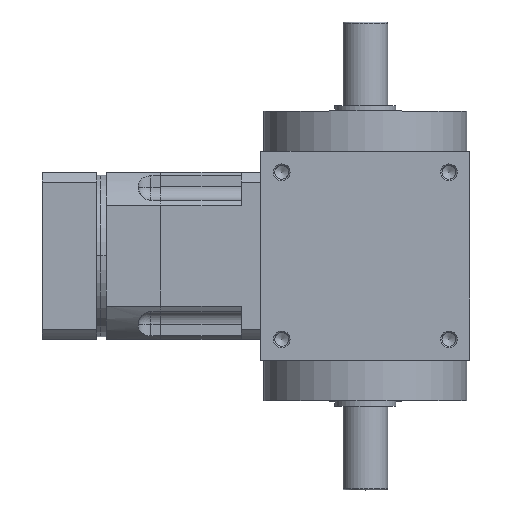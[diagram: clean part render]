
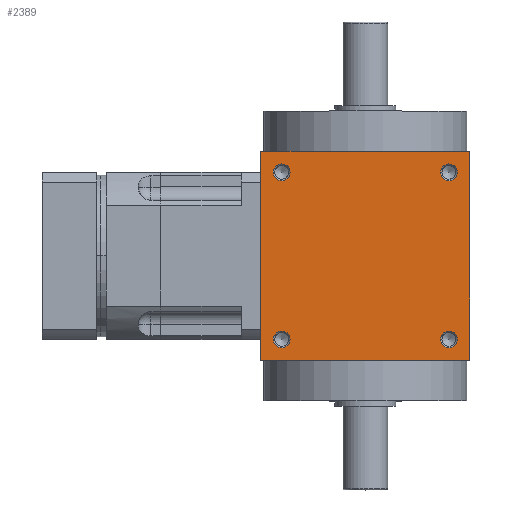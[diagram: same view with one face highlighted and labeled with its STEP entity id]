
A CAD part, top view. The second image highlights one B-rep face of the part: STEP entity #2389.
In plain terms, the highlighted planar face has unit normal (0, 0, 1).
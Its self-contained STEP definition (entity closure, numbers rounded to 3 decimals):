
#374=PLANE('',#8623);
#1082=LINE('',#12727,#1672);
#1083=LINE('',#12730,#1673);
#1084=LINE('',#12732,#1674);
#1085=LINE('',#12734,#1675);
#1672=VECTOR('',#10200,1.);
#1673=VECTOR('',#10201,1.);
#1674=VECTOR('',#10202,1.);
#1675=VECTOR('',#10203,1.);
#2389=ADVANCED_FACE('',(#3009,#3010,#3011,#3012,#3013),#374,.T.);
#3009=FACE_BOUND('',#3458,.T.);
#3010=FACE_BOUND('',#3459,.T.);
#3011=FACE_BOUND('',#3460,.T.);
#3012=FACE_BOUND('',#3461,.T.);
#3013=FACE_BOUND('',#3462,.T.);
#3458=EDGE_LOOP('',(#4638));
#3459=EDGE_LOOP('',(#4639));
#3460=EDGE_LOOP('',(#4640));
#3461=EDGE_LOOP('',(#4641));
#3462=EDGE_LOOP('',(#4642,#4643,#4644,#4645));
#4638=ORIENTED_EDGE('',*,*,#7164,.F.);
#4639=ORIENTED_EDGE('',*,*,#7163,.F.);
#4640=ORIENTED_EDGE('',*,*,#7162,.F.);
#4641=ORIENTED_EDGE('',*,*,#7161,.F.);
#4642=ORIENTED_EDGE('',*,*,#7200,.F.);
#4643=ORIENTED_EDGE('',*,*,#7201,.F.);
#4644=ORIENTED_EDGE('',*,*,#7202,.F.);
#4645=ORIENTED_EDGE('',*,*,#7203,.F.);
#6311=VERTEX_POINT('',#12634);
#6312=VERTEX_POINT('',#12637);
#6313=VERTEX_POINT('',#12640);
#6314=VERTEX_POINT('',#12643);
#6340=VERTEX_POINT('',#12728);
#6341=VERTEX_POINT('',#12729);
#6342=VERTEX_POINT('',#12731);
#6343=VERTEX_POINT('',#12733);
#7161=EDGE_CURVE('',#6311,#6311,#7947,.T.);
#7162=EDGE_CURVE('',#6312,#6312,#7948,.T.);
#7163=EDGE_CURVE('',#6313,#6313,#7949,.T.);
#7164=EDGE_CURVE('',#6314,#6314,#7950,.T.);
#7200=EDGE_CURVE('',#6340,#6341,#1082,.T.);
#7201=EDGE_CURVE('',#6342,#6340,#1083,.T.);
#7202=EDGE_CURVE('',#6343,#6342,#1084,.T.);
#7203=EDGE_CURVE('',#6341,#6343,#1085,.T.);
#7947=CIRCLE('',#8558,3.);
#7948=CIRCLE('',#8560,3.);
#7949=CIRCLE('',#8562,3.);
#7950=CIRCLE('',#8564,3.);
#8558=AXIS2_PLACEMENT_3D('',#12633,#10070,#10071);
#8560=AXIS2_PLACEMENT_3D('',#12636,#10074,#10075);
#8562=AXIS2_PLACEMENT_3D('',#12639,#10078,#10079);
#8564=AXIS2_PLACEMENT_3D('',#12642,#10082,#10083);
#8623=AXIS2_PLACEMENT_3D('',#12735,#10204,#10205);
#10070=DIRECTION('',(0.,0.,1.));
#10071=DIRECTION('',(1.,0.,0.));
#10074=DIRECTION('',(0.,0.,1.));
#10075=DIRECTION('',(1.,0.,0.));
#10078=DIRECTION('',(0.,0.,1.));
#10079=DIRECTION('',(1.,0.,0.));
#10082=DIRECTION('',(0.,0.,1.));
#10083=DIRECTION('',(1.,0.,0.));
#10200=DIRECTION('',(0.,1.,0.));
#10201=DIRECTION('',(-1.,0.,0.));
#10202=DIRECTION('',(0.,-1.,0.));
#10203=DIRECTION('',(1.,0.,0.));
#10204=DIRECTION('',(0.,0.,1.));
#10205=DIRECTION('',(-1.,0.,0.));
#12633=CARTESIAN_POINT('',(67.5,67.5,75.));
#12634=CARTESIAN_POINT('',(64.5,67.5,75.));
#12636=CARTESIAN_POINT('',(7.5,67.5,75.));
#12637=CARTESIAN_POINT('',(4.5,67.5,75.));
#12639=CARTESIAN_POINT('',(7.5,7.5,75.));
#12640=CARTESIAN_POINT('',(4.5,7.5,75.));
#12642=CARTESIAN_POINT('',(67.5,7.5,75.));
#12643=CARTESIAN_POINT('',(64.5,7.5,75.));
#12727=CARTESIAN_POINT('',(0.,37.5,75.));
#12728=CARTESIAN_POINT('',(0.,0.,75.));
#12729=CARTESIAN_POINT('',(0.,75.,75.));
#12730=CARTESIAN_POINT('',(37.5,0.,75.));
#12731=CARTESIAN_POINT('',(75.,0.,75.));
#12732=CARTESIAN_POINT('',(75.,37.5,75.));
#12733=CARTESIAN_POINT('',(75.,75.,75.));
#12734=CARTESIAN_POINT('',(37.5,75.,75.));
#12735=CARTESIAN_POINT('',(0.,0.,75.));
